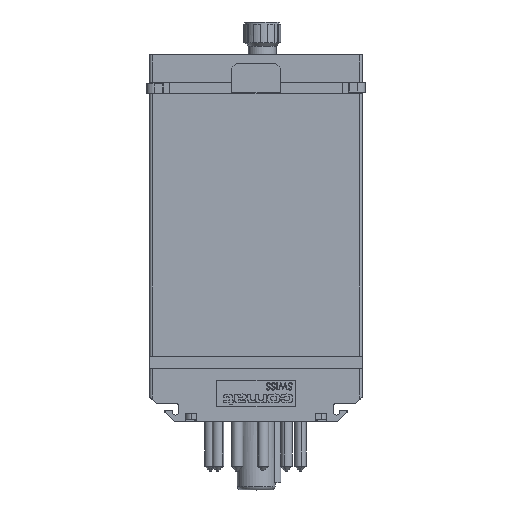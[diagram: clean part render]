
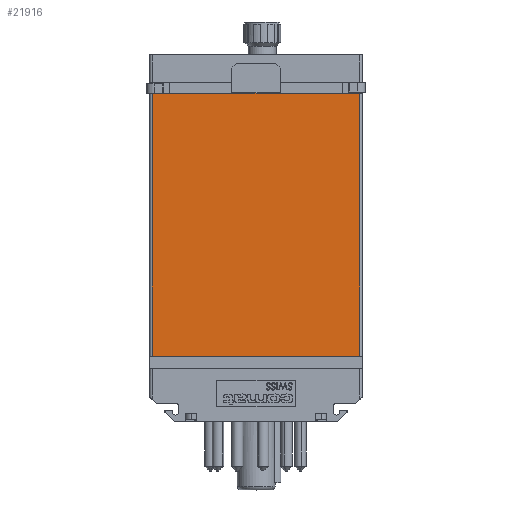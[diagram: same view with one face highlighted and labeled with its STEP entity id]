
A CAD part, top view. The second image highlights one B-rep face of the part: STEP entity #21916.
In plain terms, the highlighted planar face has unit normal (0, 0, 1) as drawn and (0, 0, -1) by its records, which use the part's own axes.
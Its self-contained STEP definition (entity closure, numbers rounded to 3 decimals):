
#635 = EDGE_LOOP ( 'NONE', ( #8242, #7410, #31909, #6405, #10496, #32944 ) ) ;
#1157 = VERTEX_POINT ( 'NONE', #2720 ) ;
#1258 = EDGE_CURVE ( 'NONE', #10068, #7907, #4887, .T. ) ;
#1626 = LINE ( 'NONE', #5079, #41028 ) ;
#1863 = DIRECTION ( 'NONE',  ( -1., 0., 0. ) ) ;
#1952 = CARTESIAN_POINT ( 'NONE',  ( 0., 0., 0. ) ) ;
#2517 = CARTESIAN_POINT ( 'NONE',  ( 5., 30., 0. ) ) ;
#2720 = CARTESIAN_POINT ( 'NONE',  ( 21.55, -24.5, 0. ) ) ;
#4887 = LINE ( 'NONE', #33405, #5400 ) ;
#4963 = DIRECTION ( 'NONE',  ( 0., 1., 0. ) ) ;
#5079 = CARTESIAN_POINT ( 'NONE',  ( 22.05, 30., 0. ) ) ;
#5400 = VECTOR ( 'NONE', #37217, 1000. ) ;
#5775 = VECTOR ( 'NONE', #4963, 1000. ) ;
#6405 = ORIENTED_EDGE ( 'NONE', *, *, #37720, .T. ) ;
#7410 = ORIENTED_EDGE ( 'NONE', *, *, #13647, .T. ) ;
#7907 = VERTEX_POINT ( 'NONE', #2517 ) ;
#8242 = ORIENTED_EDGE ( 'NONE', *, *, #1258, .F. ) ;
#8710 = DIRECTION ( 'NONE',  ( -1., 0., 0. ) ) ;
#9566 = VERTEX_POINT ( 'NONE', #16169 ) ;
#10068 = VERTEX_POINT ( 'NONE', #28001 ) ;
#10496 = ORIENTED_EDGE ( 'NONE', *, *, #35411, .F. ) ;
#10575 = CARTESIAN_POINT ( 'NONE',  ( -21.55, 30., 0. ) ) ;
#11015 = AXIS2_PLACEMENT_3D ( 'NONE', #1952, #25870, #18805 ) ;
#12392 = VECTOR ( 'NONE', #8710, 1000. ) ;
#13647 = EDGE_CURVE ( 'NONE', #10068, #1157, #40061, .T. ) ;
#14016 = VERTEX_POINT ( 'NONE', #10575 ) ;
#14110 = DIRECTION ( 'NONE',  ( 0., -1., 0. ) ) ;
#14525 = EDGE_CURVE ( 'NONE', #7907, #9566, #1626, .T. ) ;
#16169 = CARTESIAN_POINT ( 'NONE',  ( -5., 30., 0. ) ) ;
#17069 = LINE ( 'NONE', #32216, #12392 ) ;
#18282 = FACE_OUTER_BOUND ( 'NONE', #635, .T. ) ;
#18805 = DIRECTION ( 'NONE',  ( -1., 0., 0. ) ) ;
#20538 = VERTEX_POINT ( 'NONE', #41624 ) ;
#21916 = ADVANCED_FACE ( 'NONE', ( #18282 ), #32195, .T. ) ;
#24805 = CARTESIAN_POINT ( 'NONE',  ( 22.05, 30., 0. ) ) ;
#25358 = LINE ( 'NONE', #24805, #29550 ) ;
#25870 = DIRECTION ( 'NONE',  ( 0., 0., -1. ) ) ;
#27996 = CARTESIAN_POINT ( 'NONE',  ( -21.55, 30., 0. ) ) ;
#28001 = CARTESIAN_POINT ( 'NONE',  ( 21.55, 30., 0. ) ) ;
#29550 = VECTOR ( 'NONE', #34652, 1000. ) ;
#29904 = EDGE_CURVE ( 'NONE', #1157, #20538, #17069, .T. ) ;
#30434 = LINE ( 'NONE', #27996, #5775 ) ;
#31909 = ORIENTED_EDGE ( 'NONE', *, *, #29904, .T. ) ;
#32195 = PLANE ( 'NONE',  #11015 ) ;
#32216 = CARTESIAN_POINT ( 'NONE',  ( 22.05, -24.5, 0. ) ) ;
#32944 = ORIENTED_EDGE ( 'NONE', *, *, #14525, .F. ) ;
#33405 = CARTESIAN_POINT ( 'NONE',  ( 22.05, 30., 0. ) ) ;
#34652 = DIRECTION ( 'NONE',  ( -1., 0., 0. ) ) ;
#35411 = EDGE_CURVE ( 'NONE', #9566, #14016, #25358, .T. ) ;
#37217 = DIRECTION ( 'NONE',  ( -1., 0., 0. ) ) ;
#37720 = EDGE_CURVE ( 'NONE', #20538, #14016, #30434, .T. ) ;
#40061 = LINE ( 'NONE', #40879, #41123 ) ;
#40879 = CARTESIAN_POINT ( 'NONE',  ( 21.55, -24.5, 0. ) ) ;
#41028 = VECTOR ( 'NONE', #1863, 1000. ) ;
#41123 = VECTOR ( 'NONE', #14110, 1000. ) ;
#41624 = CARTESIAN_POINT ( 'NONE',  ( -21.55, -24.5, 0. ) ) ;
